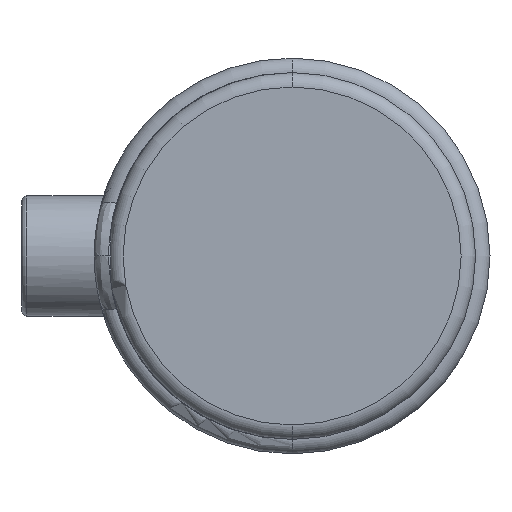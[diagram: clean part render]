
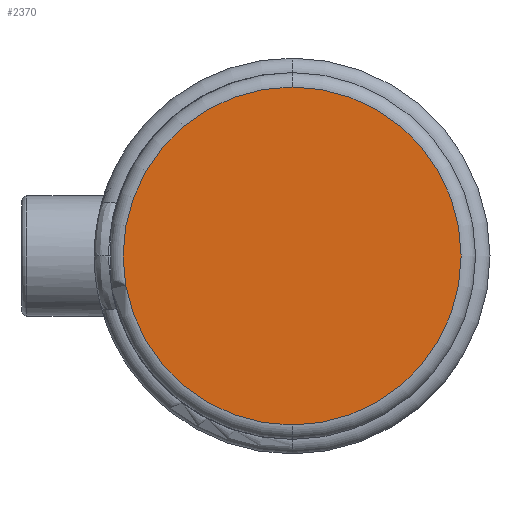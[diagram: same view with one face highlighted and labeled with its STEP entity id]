
A CAD part, left-side view. The second image highlights one B-rep face of the part: STEP entity #2370.
In plain terms, the highlighted planar face has unit normal (-1, 0, 0).
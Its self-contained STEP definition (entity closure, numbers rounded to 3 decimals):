
#288 = EDGE_LOOP ( 'NONE', ( #3133, #591 ) ) ;
#498 = EDGE_CURVE ( 'NONE', #889, #5067, #1324, .T. ) ;
#591 = ORIENTED_EDGE ( 'NONE', *, *, #498, .T. ) ;
#889 = VERTEX_POINT ( 'NONE', #1645 ) ;
#1113 = DIRECTION ( 'NONE',  ( 0., 0., 1. ) ) ;
#1138 = DIRECTION ( 'NONE',  ( -1., 0., 0. ) ) ;
#1161 = EDGE_CURVE ( 'NONE', #5067, #889, #2861, .T. ) ;
#1324 = CIRCLE ( 'NONE', #4820, 35.1 ) ;
#1439 = DIRECTION ( 'NONE',  ( 0., 0., 1. ) ) ;
#1449 = DIRECTION ( 'NONE',  ( -1., 0., 0. ) ) ;
#1458 = CARTESIAN_POINT ( 'NONE',  ( 0., 0., 0. ) ) ;
#1461 = FACE_OUTER_BOUND ( 'NONE', #288, .T. ) ;
#1463 = CARTESIAN_POINT ( 'NONE',  ( 0., 0., 0. ) ) ;
#1645 = CARTESIAN_POINT ( 'NONE',  ( 0., 0., -35.1 ) ) ;
#1799 = AXIS2_PLACEMENT_3D ( 'NONE', #1463, #1138, #1113 ) ;
#2254 = DIRECTION ( 'NONE',  ( 0., 0., 1. ) ) ;
#2364 = AXIS2_PLACEMENT_3D ( 'NONE', #2714, #2496, #2254 ) ;
#2370 = ADVANCED_FACE ( 'NONE', ( #1461 ), #2540, .T. ) ;
#2496 = DIRECTION ( 'NONE',  ( -1., 0., 0. ) ) ;
#2540 = PLANE ( 'NONE',  #2364 ) ;
#2714 = CARTESIAN_POINT ( 'NONE',  ( 0., 0., 0. ) ) ;
#2861 = CIRCLE ( 'NONE', #1799, 35.1 ) ;
#3133 = ORIENTED_EDGE ( 'NONE', *, *, #1161, .T. ) ;
#4820 = AXIS2_PLACEMENT_3D ( 'NONE', #1458, #1449, #1439 ) ;
#4975 = CARTESIAN_POINT ( 'NONE',  ( 0., 0., 35.1 ) ) ;
#5067 = VERTEX_POINT ( 'NONE', #4975 ) ;
